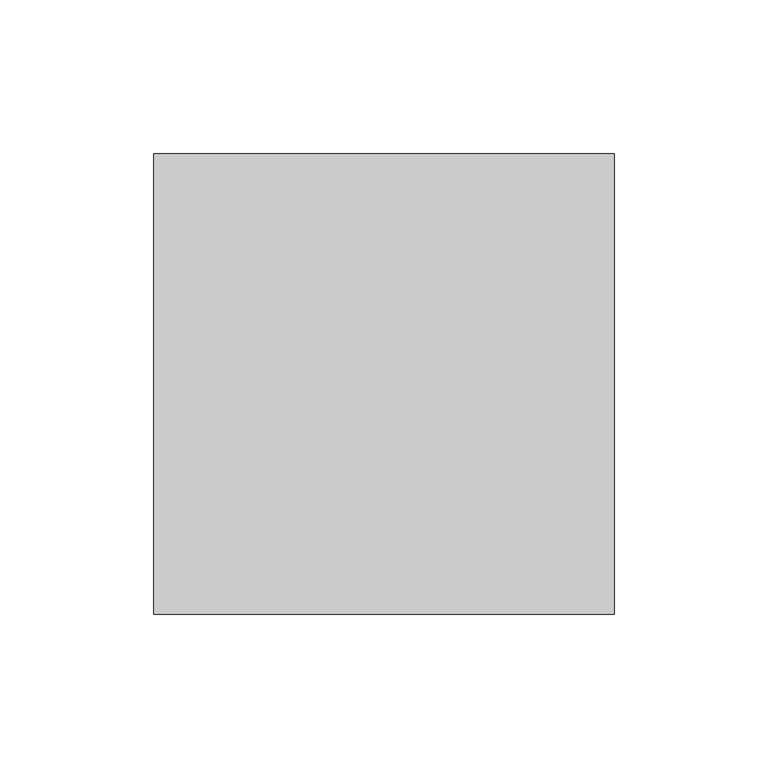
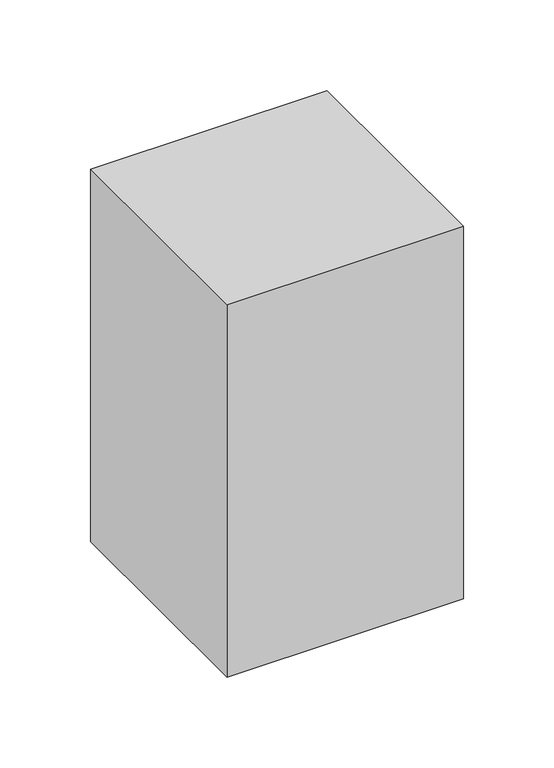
"""IFC4 building model written with IfcOpenShell, lengths in millimetres: proxy geometry, Брус : 150х150."""

from ifc_helpers import new_model, si_unit, origin, origin_with_axes, place, context, project, spatial, polyline, outline, extrude, source, transform, mapped, element, save


def generic_models_313b4dc4(model_context):
    return source(origin(), model_context, "Body", "SweptSolid", [
        extrude(outline(polyline([(150.0, 0.0), (0.0, 0.0), (0.0, 150.0), (150.0, 150.0), (150.0, 0.0)])), origin_with_axes(), (0.0, 0.0, 1.0), 250.0),
    ])


if __name__ == "__main__":
    model = new_model("IFC4")
    model_context = context("Model", 3, world=origin())
    ifc_project = project(units=[si_unit("LENGTHUNIT", "METRE", prefix="MILLI")], contexts=[model_context])
    site = spatial("IfcSite", under=ifc_project)
    building = spatial("IfcBuilding", under=site)
    placement = place(None, origin())
    generic_models_shape = generic_models_313b4dc4(model_context)
    element("IfcBuildingElementProxy", 1, Name="Брус : 150х150", ObjectType="Брус : 150х150", at=placement, inside=building, context=model_context, shape_type="MappedRepresentation", body=[
        mapped(generic_models_shape, transform((0.0, 0.0, 0.0), x_axis=(1.0, 0.0, 0.0), y_axis=(0.0, 1.0, 0.0), z_axis=(0.0, 0.0, 1.0))),
    ])
    save(model, "model.ifc")
